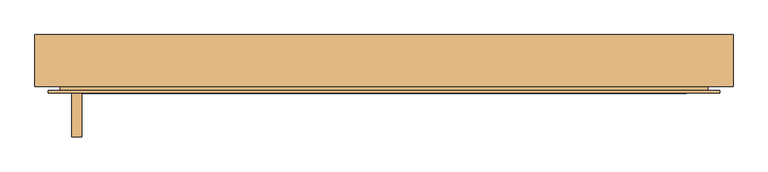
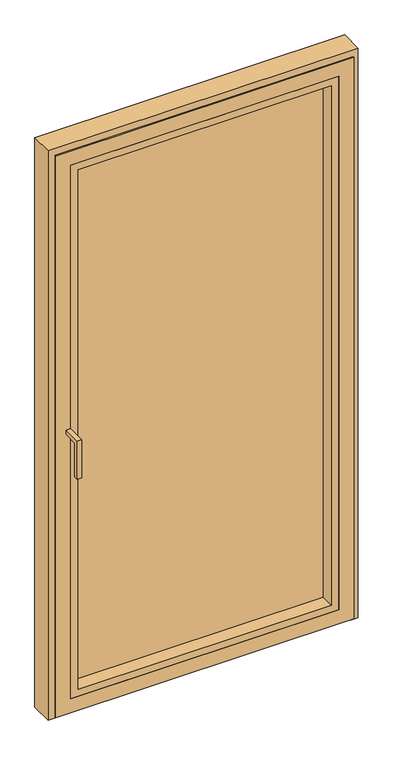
"""IFC4 building model written with IfcOpenShell, lengths in millimetres: door geometry, Reynaers_Masterline 8_Window Door_Inward Opening_Single Vent : Reynaers_Masterline 8_Window Door_Inward Opening_Single Vent."""

from ifc_helpers import new_model, si_unit, frame, origin, place, context, project, spatial, polyline, outline, extrude, faceted_brep, source, transform, mapped, element, save


def door_9e95c6df(model_context):
    return source(origin(), model_context, "Body", "SolidModel", [
        extrude(outline(polyline([(-7.0, 1001.0), (-57.0, 1001.0), (-57.0, 881.0), (-72.0, 881.0), (-72.0, 1016.0), (-7.0, 1016.0), (-7.0, 1001.0)])), frame((-465.0, 0.0, 0.0), z_axis=(1.0, 0.0, 0.0), x_axis=(0.0, 1.0, 0.0)), (0.0, 0.0, 1.0), 15.0),
        extrude(outline(polyline([(467.0, 80.0), (467.0, 73.3161312), (-467.0, 73.3161312), (-467.0, 80.0), (467.0, 80.0)])), frame((0.0, 0.0, 9.0), z_axis=(0.0, 0.0, 1.0), x_axis=(1.0, 0.0, 0.0)), (0.0, 0.0, 1.0), 40.0),
        extrude(outline(polyline([(467.0, 66.7987266), (467.0, 57.7184295), (-467.0, 57.7184295), (-467.0, 66.7987266), (467.0, 66.7987266)])), frame((0.0, 0.0, 1.0), z_axis=(0.0, 0.0, 1.0), x_axis=(1.0, 0.0, 0.0)), (0.0, 0.0, 1.0), 26.0),
        extrude(outline(polyline([(467.0, 24.9284889), (467.0, 0.9284886), (-467.0, 0.9284886), (-467.0, 24.9284889), (467.0, 24.9284889)])), frame((0.0, 0.0, 5.3954515), z_axis=(0.0, 0.0, 1.0), x_axis=(1.0, 0.0, 0.0)), (0.0, 0.0, 1.0), 21.6045485),
        faceted_brep([(460.0, 70.0, 49.0), (460.0, 80.0, 49.0), (460.0, 80.0, 1960.0), (460.0, 70.0, 1960.0), (423.0, 80.0, 86.0), (423.0, 72.0, 86.0), (423.0, 72.0, 1923.0), (423.0, 80.0, 1923.0), (-460.0, 80.0, 1960.0), (-460.0, 70.0, 1960.0), (-423.0, 72.0, 1923.0), (-423.0, 80.0, 1923.0), (-460.0, 80.0, 49.0), (-460.0, 70.0, 49.0), (-423.0, 72.0, 86.0), (-423.0, 80.0, 86.0), (500.0, -7.0, 2000.0), (-500.0, -7.0, 2000.0), (-500.0, -7.0, 9.0), (500.0, -7.0, 9.0), (450.0, -7.0, 59.0), (-450.0, -7.0, 59.0), (-450.0, -7.0, 1950.0), (450.0, -7.0, 1950.0), (450.0, 72.0, 1950.0), (-450.0, 72.0, 1950.0), (-450.0, 72.0, 59.0), (450.0, 72.0, 59.0), (482.0, -3.0, 1982.0), (482.0, 70.0, 1982.0), (-482.0, 70.0, 1982.0), (-482.0, -3.0, 1982.0), (500.0, -3.0, 2000.0), (-500.0, -3.0, 2000.0), (-482.0, 70.0, 27.0), (-482.0, -3.0, 27.0), (-500.0, -3.0, 9.0), (482.0, 70.0, 27.0), (482.0, -3.0, 27.0), (500.0, -3.0, 9.0)], [[[0, 1, 2, 3]], [[4, 5, 6, 7]], [[3, 2, 8, 9]], [[7, 6, 10, 11]], [[9, 8, 12, 13]], [[11, 10, 14, 15]], [[1, 12, 8, 2], [7, 11, 15, 4]], [[13, 12, 1, 0]], [[16, 17, 18, 19], [20, 21, 22, 23]], [[15, 14, 5, 4]], [[24, 23, 22, 25]], [[25, 22, 21, 26]], [[26, 21, 20, 27]], [[27, 20, 23, 24]], [[25, 26, 27, 24], [6, 5, 14, 10]], [[28, 29, 30, 31]], [[16, 32, 33, 17]], [[31, 30, 34, 35]], [[17, 33, 36, 18]], [[35, 34, 37, 38]], [[18, 36, 39, 19]], [[29, 37, 34, 30], [9, 13, 0, 3]], [[38, 37, 29, 28]], [[32, 39, 36, 33], [31, 35, 38, 28]], [[19, 39, 32, 16]]]),
        faceted_brep([(467.0, 80.0, 1.0), (520.0, 80.0, 1.0), (520.0, 3.0, 1.0), (494.0, 3.0, 1.0), (494.0, 76.0, 1.0), (467.0, 76.0, 1.0), (467.0, 80.0, 1967.0), (-467.0, 80.0, 1967.0), (-467.0, 80.0, 1.0), (-520.0, 80.0, 1.0), (-520.0, 80.0, 2020.0), (520.0, 80.0, 2020.0), (520.0, 3.0, 2020.0), (-520.0, 3.0, 2020.0), (-520.0, 3.0, 1.0), (-494.0, 3.0, 1.0), (-494.0, 3.0, 1994.0), (494.0, 3.0, 1994.0), (467.0, 76.0, 1967.0), (-467.0, 76.0, 1967.0), (-467.0, 76.0, 1.0), (-494.0, 76.0, 1.0), (494.0, 76.0, 1994.0), (-494.0, 76.0, 1994.0)], [[[0, 1, 2, 3, 4, 5]], [[1, 0, 6, 7, 8, 9, 10, 11]], [[2, 1, 11, 12]], [[3, 2, 12, 13, 14, 15, 16, 17]], [[0, 5, 18, 6]], [[12, 11, 10, 13]], [[6, 18, 19, 7]], [[8, 20, 21, 15, 14, 9]], [[13, 10, 9, 14]], [[7, 19, 20, 8]], [[22, 17, 16, 23]], [[23, 16, 15, 21]], [[4, 3, 17, 22]], [[5, 4, 22, 23, 21, 20, 19, 18]]]),
        extrude(outline(polyline([(1950.0, -450.0), (59.0, -450.0), (59.0, 450.0), (1950.0, 450.0), (1950.0, -450.0)]), holes=[polyline([(1925.0, 425.0), (84.0, 425.0), (84.0, -425.0), (1925.0, -425.0), (1925.0, 425.0)])]), frame((0.0, -7.0, 0.0), z_axis=(0.0, 1.0, 0.0), x_axis=(0.0, 0.0, 1.0)), (0.0, 0.0, 1.0), 46.0),
        extrude(outline(polyline([(442.0, 45.0), (-442.0, 45.0), (-442.0, 72.0), (442.0, 72.0), (442.0, 45.0)])), frame((0.0, 0.0, 67.0), z_axis=(0.0, 0.0, 1.0), x_axis=(1.0, 0.0, 0.0)), (0.0, 0.0, 1.0), 1875.0),
    ])


if __name__ == "__main__":
    model = new_model("IFC4")
    model_context = context("Model", 3, world=origin())
    ifc_project = project(units=[si_unit("LENGTHUNIT", "METRE", prefix="MILLI")], contexts=[model_context])
    site = spatial("IfcSite", under=ifc_project)
    building = spatial("IfcBuilding", under=site)
    placement = place(None, origin())
    door_shape = door_9e95c6df(model_context)
    element("IfcDoor", 1, ObjectType="Reynaers_Masterline 8_Window Door_Inward Opening_Single Vent : Reynaers_Masterline 8_Window Door_Inward Opening_Single Vent", at=placement, inside=building, context=model_context, shape_type="MappedRepresentation", body=[
        mapped(door_shape, transform((0.0, 0.0, 0.0), x_axis=(1.0, 0.0, 0.0), y_axis=(0.0, 1.0, 0.0), z_axis=(0.0, 0.0, 1.0))),
    ])
    save(model, "model.ifc")
